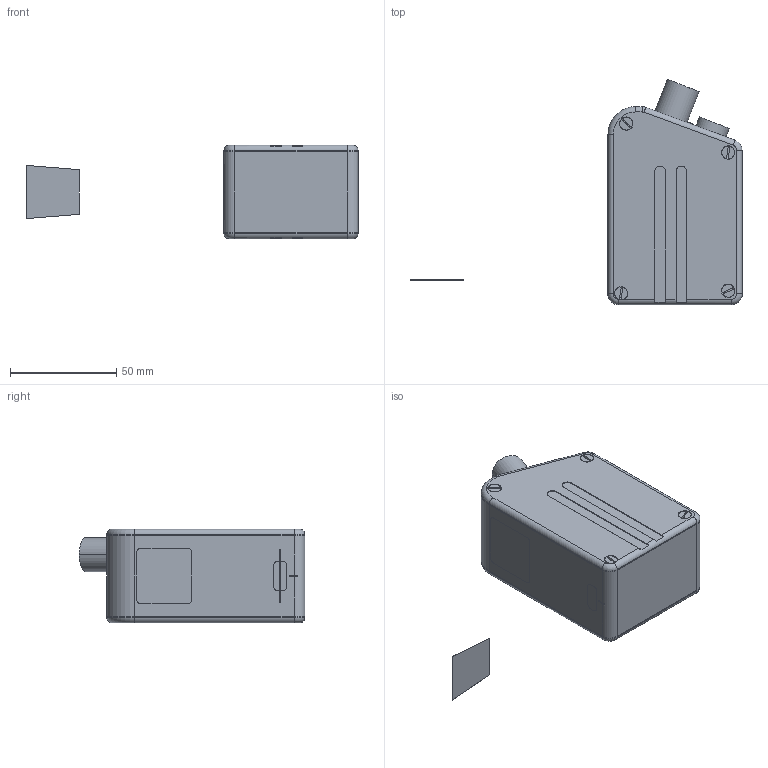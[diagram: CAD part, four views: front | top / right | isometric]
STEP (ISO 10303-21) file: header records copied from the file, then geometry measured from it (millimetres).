
FILE_DESCRIPTION (( 'STEP AP214' ), '1' );
FILE_NAME ('ÐÔ 627.65_25.000_ÑÁ ñêàíåð äëÿ ñàéòà.STEP', '2019-07-02T07:09:56', ( 'test' ), ( 'Ref' ), 'SwSTEP 2.0', 'SolidWorks 2015', '' );
FILE_SCHEMA (( 'AUTOMOTIVE_DESIGN' ));
Length unit declared in the file: millimetre
Products named in the file (27): Submodel-FH12-32S-0.5SH_lpar_55_rpar__2555814880_part_FH12-32S-0.5SH_1; 栺樏鋋 14-6-2; placementOutline_1; Submodel-1553488_341613795_part_PHOENIX_1553488_1; 性 625.75_ 袜觌彘赅_觏铒觇; 栺樏鋋 26-26-2 擤; Êðûøêà 627 - â5 êðûøêà áîêîâàÿ ïîñëåäíÿÿ 1; Submodel-FH12-06S-1SH_lpar_55_rpar__1599555785_part_FH12-06S-1SH_1; Âèíò_Ì3x10 â ïîòàé; Submodel-noModelForPart_FH12-32S-0.5SH_lpar_55_rpar__2555814880_1; DesignRootModel_1; placementOutline_1_3; Submodel-noModelForPart_FH12-06S-1SH_lpar_55_rpar__1599555785_1; RF627_80_017(1); placementOutline_1_2; Submodel-Binder_09-0428-30-08_3952738181_part_Binder_09-0428-30-08_1; ÐÔ 627.65_25.000_ÑÁ ñêàíåð äëÿ ñàéòà; uid__27_1; placementOutline_1_4; 砐錼 睯儰擯闃蠂 25; Ðåçüáîâàÿ âòóëêà Ì6-6; Êîðïóñ 627 - 75-50 ñ ïàçîì ïîñëåäíåå; Âèíò_Ì3x8 â ïîòàé; Âèíò_Ì2õ4; Submodel-noModelForPart_Binder_09-0428-30-08_3952738181_1; Submodel-noModelForPart_1553488_341613795_1; Êðûøêà 627 â5 çåðêàëüíàÿ ïîñëåäíÿÿ
Assembly tree (39 placements, depth 6):
  ÐÔ 627.65_25.000_ÑÁ ñêàíåð äëÿ ñàéòà
    RF627_80_017(1)
      DesignRootModel_1
        uid__27_1
        Submodel-1553488_341613795_part_PHOENIX_1553488_1
          Submodel-noModelForPart_1553488_341613795_1
            placementOutline_1
        Submodel-Binder_09-0428-30-08_3952738181_part_Binder_09-0428-30-08_1
          Submodel-noModelForPart_Binder_09-0428-30-08_3952738181_1
            placementOutline_1_2
        Submodel-FH12-06S-1SH_lpar_55_rpar__1599555785_part_FH12-06S-1SH_1  x2
          Submodel-noModelForPart_FH12-06S-1SH_lpar_55_rpar__1599555785_1
            placementOutline_1_3
        Submodel-FH12-32S-0.5SH_lpar_55_rpar__2555814880_part_FH12-32S-0.5SH_1
          Submodel-noModelForPart_FH12-32S-0.5SH_lpar_55_rpar__2555814880_1
            placementOutline_1_4
    Êîðïóñ 627 - 75-50 ñ ïàçîì ïîñëåäíåå
    Êðûøêà 627 - â5 êðûøêà áîêîâàÿ ïîñëåäíÿÿ 1
    Êðûøêà 627 â5 çåðêàëüíàÿ ïîñëåäíÿÿ
    Ðåçüáîâàÿ âòóëêà Ì6-6  x4
    性 625.75_ 袜觌彘赅_觏铒觇
    Âèíò_Ì2õ4  x4
    Âèíò_Ì3x10 â ïîòàé  x6
    栺樏鋋 14-6-2
    栺樏鋋 26-26-2 擤
    砐錼 睯儰擯闃蠂 25
    Âèíò_Ì3x8 â ïîòàé  x2
Bounding box: 156 x 105.9 x 44 mm (x, y, z)
Volume: 78039.8 mm3; surface area: 62544.5 mm2
Topology: 31 solids, 31 shells, 1132 faces, 2980 edges, 1932 vertices
Faces by surface type: plane 606, cylinder 300, cone 112, bspline 84, torus 30
Entity records: 34637 total; most frequent: CARTESIAN_POINT 9729, ORIENTED_EDGE 4812, DIRECTION 4574, EDGE_CURVE 2406, VECTOR 1576, LINE 1576, VERTEX_POINT 1576, AXIS2_PLACEMENT_3D 1499
